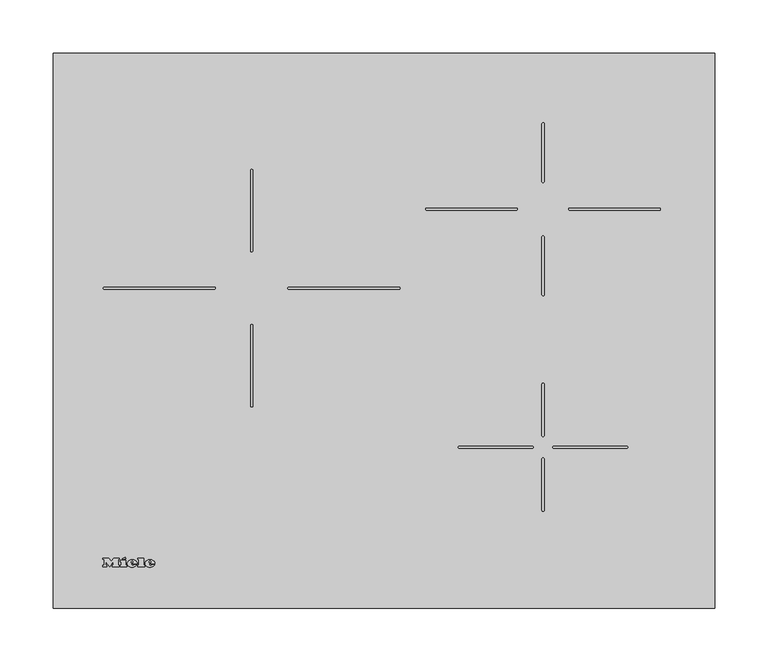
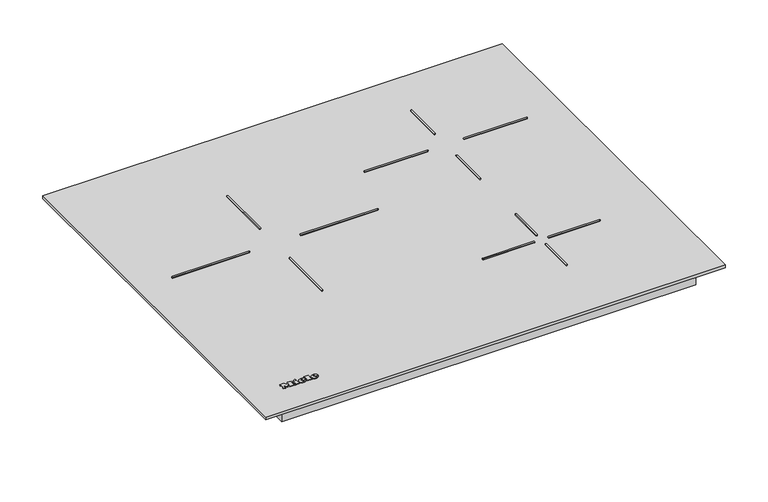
"""IFC4 building model written with IfcOpenShell, lengths in millimetres: proxy geometry, 12399750_AUS_KM7220FL : 26722070_AUS_12399750_KM7220FL."""

from ifc_helpers import new_model, si_unit, point, frame, frame_2d, origin, origin_with_axes, place, context, project, spatial, polyline, circle_curve, ellipse_curve, trimmed, segment, composite_curve, outline, extrude, source, transform, mapped, element, save
from ifc_brep_helpers import plane_surface, cylinder_surface, revolved_surface, extruded_surface, advanced_brep


def specialty_equipment_c76324b8(model_context):
    return source(origin(), model_context, "Body", "SolidModel", [
        advanced_brep(
        [(-219.911984, 41.066, 5.0000007), (-219.911984, 41.874, 5.0000007), (-214.559984, 41.874, 5.0000007), (-223.871984, 41.874, 5.0000007), (-221.671984, 39.17, 5.0000007), (-214.695984, 41.066, 5.0000007), (-217.111984, 41.066, 5.0000007), (-219.015984, 40.17, 5.0000007), (-219.911984, 42.898, 5.0000007), (-219.911984, 43.77, 5.0000007), (-218.543984, 43.77, 5.0000007), (-218.543984, 42.898, 5.0000007), (-219.911984, 41.066, 4.0000007), (-219.015984, 40.17, 4.0000007), (-217.111984, 41.066, 4.0000007), (-214.695984, 41.066, 4.0000007), (-221.671984, 39.17, 4.0000007), (-223.871984, 41.874, 4.0000007), (-214.559984, 41.874, 4.0000007), (-219.911984, 41.874, 4.0000007), (-219.911984, 42.898, 4.0000007), (-218.543984, 42.898, 4.0000007), (-218.543984, 43.77, 4.0000007), (-219.911984, 43.77, 4.0000007)],
        [
            (0, 1),
            (1, 2),
            (2, 3, ellipse_curve(frame((-219.215984, 41.874, 5.0000007), z_axis=(0.0, 0.0, 1.0), x_axis=(-1.0, 0.0, 0.0)), 4.656, 3.848)),
            (3, 4, circle_curve(frame((-220.7759404, 42.146, 5.0000007), z_axis=(0.0, 0.0, 1.0), x_axis=(0.0, -1.0, 0.0)), 3.1079688)),
            (4, 5, circle_curve(frame((-219.3091904, 44.258, 5.0000007), z_axis=(0.0, 0.0, 1.0), x_axis=(0.0, -1.0, 0.0)), 5.6098607)),
            (5, 6),
            (6, 7, circle_curve(frame((-218.6249252, 41.81, 5.0000007), z_axis=(0.0, 0.0, -1.0), x_axis=(0.0, -1.0, 0.0)), 1.6859795)),
            (7, 0, circle_curve(frame((-219.015984, 41.066, 5.0000007), z_axis=(0.0, 0.0, -1.0), x_axis=(0.0, -1.0, 0.0)), 0.896)),
            (8, 9),
            (9, 10, circle_curve(frame((-219.227984, 43.77, 5.0000007), z_axis=(0.0, 0.0, -1.0), x_axis=(0.0, -1.0, 0.0)), 0.684)),
            (10, 11),
            (11, 8),
            (12, 13, circle_curve(frame((-219.015984, 41.066, 4.0000007), z_axis=(0.0, 0.0, 1.0), x_axis=(0.0, -1.0, 0.0)), 0.896)),
            (13, 14, circle_curve(frame((-218.6249252, 41.81, 4.0000007), z_axis=(0.0, 0.0, 1.0), x_axis=(0.0, -1.0, 0.0)), 1.6859795)),
            (14, 15),
            (15, 16, circle_curve(frame((-219.3091904, 44.258, 4.0000007), z_axis=(0.0, 0.0, -1.0), x_axis=(0.0, -1.0, 0.0)), 5.6098607)),
            (16, 17, circle_curve(frame((-220.7759404, 42.146, 4.0000007), z_axis=(0.0, 0.0, -1.0), x_axis=(0.0, -1.0, 0.0)), 3.1079688)),
            (17, 18, ellipse_curve(frame((-219.215984, 41.874, 4.0000007), z_axis=(0.0, 0.0, -1.0), x_axis=(-1.0, 0.0, 0.0)), 4.656, 3.848)),
            (18, 19),
            (19, 12),
            (20, 21),
            (21, 22),
            (22, 23, circle_curve(frame((-219.227984, 43.77, 4.0000007), z_axis=(0.0, 0.0, 1.0), x_axis=(0.0, -1.0, 0.0)), 0.684)),
            (23, 20),
            (0, 12),
            (19, 1),
            (18, 2),
            (5, 15),
            (14, 6),
            (17, 3),
            (13, 7),
            (16, 4),
            (8, 20),
            (23, 9),
            (22, 10),
            (21, 11),
        ],
        [
            plane_surface(frame((-219.911984, 41.874, 5.0000007), z_axis=(0.0, 0.0, 1.0), x_axis=(0.0, 1.0, 0.0))),
            plane_surface(frame((-219.911984, 41.874, 4.0000007), z_axis=(0.0, 0.0, -1.0), x_axis=(0.0, -1.0, 0.0))),
            plane_surface(frame((-219.911984, 41.066, 5.0000007), z_axis=(1.0, 0.0, 0.0), x_axis=(0.0, 0.0, -1.0))),
            plane_surface(frame((-219.911984, 41.874, 5.0000007), z_axis=(0.0, -1.0, 0.0), x_axis=(0.0, 0.0, -1.0))),
            plane_surface(frame((-214.695984, 41.066, 5.0000007), z_axis=(0.0, 1.0, 0.0), x_axis=(0.0, 0.0, -1.0))),
            extruded_surface(trimmed(ellipse_curve(frame((-219.215984, 41.874, 3.0000007), z_axis=(0.0, 0.0, 1.0), x_axis=(-1.0, 0.0, 0.0)), 4.656, 3.848), [point((-214.559984, 41.874, 3.0000007))], [point((-223.871984, 41.874, 3.0000007))], True, "CARTESIAN"), (0.0, 0.0, 1.0), 1.0),
            revolved_surface(polyline([(-218.6249252, 40.1240205, 4.0000007), (-218.6249252, 40.1240205, 5.0000007)]), (-218.6249252, 41.81, 4.0000007), (0.0, 0.0, -1.0)),
            revolved_surface(polyline([(-219.015984, 40.17, 4.0000007), (-219.015984, 40.17, 5.0000007)]), (-219.015984, 41.066, 4.0000007), (0.0, 0.0, -1.0)),
            cylinder_surface(frame((-220.7759404, 42.146, 4.0000007), z_axis=(0.0, 0.0, 1.0), x_axis=(0.0, -1.0, 0.0)), 3.1079688),
            cylinder_surface(frame((-219.3091904, 44.258, 4.0000007), z_axis=(0.0, 0.0, 1.0), x_axis=(0.0, -1.0, 0.0)), 5.6098607),
            plane_surface(frame((-219.911984, 42.898, 5.0000007), z_axis=(1.0, 0.0, 0.0), x_axis=(0.0, 0.0, -1.0))),
            revolved_surface(polyline([(-219.227984, 43.086000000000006, 4.0000007), (-219.227984, 43.086000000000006, 5.0000007)]), (-219.227984, 43.77, 4.0000007), (0.0, 0.0, -1.0)),
            plane_surface(frame((-218.543984, 43.77, 5.0000007), z_axis=(-1.0, 0.0, 0.0), x_axis=(0.0, 0.0, -1.0))),
            plane_surface(frame((-218.543984, 42.898, 5.0000007), z_axis=(0.0, 1.0, 0.0), x_axis=(0.0, 0.0, -1.0))),
        ],
        [
            (0, [[1, 2, 3, 4, 5, 6, 7, 8], [9, 10, 11, 12]]),
            (1, [[13, 14, 15, 16, 17, 18, 19, 20], [21, 22, 23, 24]]),
            (2, [[-1, 25, -20, 26]]),
            (3, [[-2, -26, -19, 27]]),
            (4, [[-6, 28, -15, 29]]),
            (5, [[-3, -27, -18, 30]]),
            (6, [[-7, -29, -14, 31]]),
            (7, [[-8, -31, -13, -25]]),
            (8, [[-4, -30, -17, 32]]),
            (9, [[-5, -32, -16, -28]]),
            (10, [[-9, 33, -24, 34]]),
            (11, [[-10, -34, -23, 35]]),
            (12, [[-11, -35, -22, 36]]),
            (13, [[-12, -36, -21, -33]]),
        ],
    ),
        advanced_brep(
        [(-236.607984, 41.066, 5.0000007), (-236.607984, 41.874, 5.0000007), (-231.255984, 41.874, 5.0000007), (-240.567984, 41.874, 5.0000007), (-238.367984, 39.17, 5.0000007), (-231.391984, 41.066, 5.0000007), (-233.807984, 41.066, 5.0000007), (-235.711984, 40.17, 5.0000007), (-236.607984, 42.898, 5.0000007), (-236.607984, 43.77, 5.0000007), (-235.239984, 43.77, 5.0000007), (-235.239984, 42.898, 5.0000007), (-236.607984, 41.066, 4.0000007), (-235.711984, 40.17, 4.0000007), (-233.807984, 41.066, 4.0000007), (-231.391984, 41.066, 4.0000007), (-238.367984, 39.17, 4.0000007), (-240.567984, 41.874, 4.0000007), (-231.255984, 41.874, 4.0000007), (-236.607984, 41.874, 4.0000007), (-236.607984, 42.898, 4.0000007), (-235.239984, 42.898, 4.0000007), (-235.239984, 43.77, 4.0000007), (-236.607984, 43.77, 4.0000007)],
        [
            (0, 1),
            (1, 2),
            (2, 3, ellipse_curve(frame((-235.911984, 41.874, 5.0000007), z_axis=(0.0, 0.0, 1.0), x_axis=(-1.0, 0.0, 0.0)), 4.656, 3.848)),
            (3, 4, circle_curve(frame((-237.4719404, 42.146, 5.0000007), z_axis=(0.0, 0.0, 1.0), x_axis=(0.0, -1.0, 0.0)), 3.1079688)),
            (4, 5, circle_curve(frame((-236.0051904, 44.258, 5.0000007), z_axis=(0.0, 0.0, 1.0), x_axis=(0.0, -1.0, 0.0)), 5.6098607)),
            (5, 6),
            (6, 7, circle_curve(frame((-235.3209252, 41.81, 5.0000007), z_axis=(0.0, 0.0, -1.0), x_axis=(0.0, -1.0, 0.0)), 1.6859795)),
            (7, 0, circle_curve(frame((-235.711984, 41.066, 5.0000007), z_axis=(0.0, 0.0, -1.0), x_axis=(0.0, -1.0, 0.0)), 0.896)),
            (8, 9),
            (9, 10, circle_curve(frame((-235.923984, 43.77, 5.0000007), z_axis=(0.0, 0.0, -1.0), x_axis=(0.0, -1.0, 0.0)), 0.684)),
            (10, 11),
            (11, 8),
            (12, 13, circle_curve(frame((-235.711984, 41.066, 4.0000007), z_axis=(0.0, 0.0, 1.0), x_axis=(0.0, -1.0, 0.0)), 0.896)),
            (13, 14, circle_curve(frame((-235.3209252, 41.81, 4.0000007), z_axis=(0.0, 0.0, 1.0), x_axis=(0.0, -1.0, 0.0)), 1.6859795)),
            (14, 15),
            (15, 16, circle_curve(frame((-236.0051904, 44.258, 4.0000007), z_axis=(0.0, 0.0, -1.0), x_axis=(0.0, -1.0, 0.0)), 5.6098607)),
            (16, 17, circle_curve(frame((-237.4719404, 42.146, 4.0000007), z_axis=(0.0, 0.0, -1.0), x_axis=(0.0, -1.0, 0.0)), 3.1079688)),
            (17, 18, ellipse_curve(frame((-235.911984, 41.874, 4.0000007), z_axis=(0.0, 0.0, -1.0), x_axis=(-1.0, 0.0, 0.0)), 4.656, 3.848)),
            (18, 19),
            (19, 12),
            (20, 21),
            (21, 22),
            (22, 23, circle_curve(frame((-235.923984, 43.77, 4.0000007), z_axis=(0.0, 0.0, 1.0), x_axis=(0.0, -1.0, 0.0)), 0.684)),
            (23, 20),
            (0, 12),
            (19, 1),
            (18, 2),
            (5, 15),
            (14, 6),
            (17, 3),
            (13, 7),
            (16, 4),
            (8, 20),
            (23, 9),
            (22, 10),
            (21, 11),
        ],
        [
            plane_surface(frame((-236.607984, 41.874, 5.0000007), z_axis=(0.0, 0.0, 1.0), x_axis=(0.0, 1.0, 0.0))),
            plane_surface(frame((-236.607984, 41.874, 4.0000007), z_axis=(0.0, 0.0, -1.0), x_axis=(0.0, -1.0, 0.0))),
            plane_surface(frame((-236.607984, 41.066, 5.0000007), z_axis=(1.0, 0.0, 0.0), x_axis=(0.0, 0.0, -1.0))),
            plane_surface(frame((-236.607984, 41.874, 5.0000007), z_axis=(0.0, -1.0, 0.0), x_axis=(0.0, 0.0, -1.0))),
            plane_surface(frame((-231.391984, 41.066, 5.0000007), z_axis=(0.0, 1.0, 0.0), x_axis=(0.0, 0.0, -1.0))),
            extruded_surface(trimmed(ellipse_curve(frame((-235.911984, 41.874, 3.0000007), z_axis=(0.0, 0.0, 1.0), x_axis=(-1.0, 0.0, 0.0)), 4.656, 3.848), [point((-231.255984, 41.874, 3.0000007))], [point((-240.567984, 41.874, 3.0000007))], True, "CARTESIAN"), (0.0, 0.0, 1.0), 1.0),
            revolved_surface(polyline([(-235.3209252, 40.1240205, 4.0000007), (-235.3209252, 40.1240205, 5.0000007)]), (-235.3209252, 41.81, 4.0000007), (0.0, 0.0, -1.0)),
            revolved_surface(polyline([(-235.711984, 40.17, 4.0000007), (-235.711984, 40.17, 5.0000007)]), (-235.711984, 41.066, 4.0000007), (0.0, 0.0, -1.0)),
            cylinder_surface(frame((-237.4719404, 42.146, 4.0000007), z_axis=(0.0, 0.0, 1.0), x_axis=(0.0, -1.0, 0.0)), 3.1079688),
            cylinder_surface(frame((-236.0051904, 44.258, 4.0000007), z_axis=(0.0, 0.0, 1.0), x_axis=(0.0, -1.0, 0.0)), 5.6098607),
            plane_surface(frame((-236.607984, 42.898, 5.0000007), z_axis=(1.0, 0.0, 0.0), x_axis=(0.0, 0.0, -1.0))),
            revolved_surface(polyline([(-235.923984, 43.086000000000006, 4.0000007), (-235.923984, 43.086000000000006, 5.0000007)]), (-235.923984, 43.77, 4.0000007), (0.0, 0.0, -1.0)),
            plane_surface(frame((-235.239984, 43.77, 5.0000007), z_axis=(-1.0, 0.0, 0.0), x_axis=(0.0, 0.0, -1.0))),
            plane_surface(frame((-235.239984, 42.898, 5.0000007), z_axis=(0.0, 1.0, 0.0), x_axis=(0.0, 0.0, -1.0))),
        ],
        [
            (0, [[1, 2, 3, 4, 5, 6, 7, 8], [9, 10, 11, 12]]),
            (1, [[13, 14, 15, 16, 17, 18, 19, 20], [21, 22, 23, 24]]),
            (2, [[-1, 25, -20, 26]]),
            (3, [[-2, -26, -19, 27]]),
            (4, [[-6, 28, -15, 29]]),
            (5, [[-3, -27, -18, 30]]),
            (6, [[-7, -29, -14, 31]]),
            (7, [[-8, -31, -13, -25]]),
            (8, [[-4, -30, -17, 32]]),
            (9, [[-5, -32, -16, -28]]),
            (10, [[-9, 33, -24, 34]]),
            (11, [[-10, -34, -23, 35]]),
            (12, [[-11, -35, -22, 36]]),
            (13, [[-12, -36, -21, -33]]),
        ],
    ),
        extrude(outline(polyline([(-245.351984, 46.698), (-242.631984, 47.962), (-242.031984, 46.666), (-244.743984, 45.402), (-245.351984, 46.698)])), frame((0.0, 0.0, 4.0000007), z_axis=(0.0, 0.0, 1.0), x_axis=(1.0, 0.0, 0.0)), (0.0, 0.0, 1.0), 1.0),
        extrude(outline(polyline([(-247.327984, 45.226), (-241.943984, 45.226), (-241.943984, 40.514), (-241.015984, 40.514), (-241.015984, 39.17), (-247.327984, 39.17), (-247.327984, 40.514), (-246.375984, 40.514), (-246.375984, 43.794), (-247.327984, 43.794), (-247.327984, 45.226)])), frame((0.0, 0.0, 4.0000007), z_axis=(0.0, 0.0, 1.0), x_axis=(1.0, 0.0, 0.0)), (0.0, 0.0, 1.0), 1.0),
        extrude(outline(polyline([(-230.807984, 45.866), (-230.807984, 47.17), (-225.303984, 47.17), (-225.303984, 40.514), (-224.319984, 40.514), (-224.319984, 39.17), (-230.807984, 39.17), (-230.807984, 40.514), (-229.847984, 40.514), (-229.847984, 45.866), (-230.807984, 45.866)])), frame((0.0, 0.0, 4.0000007), z_axis=(0.0, 0.0, 1.0), x_axis=(1.0, 0.0, 0.0)), (0.0, 0.0, 1.0), 1.0),
        extrude(outline(polyline([(-263.271984, 45.866), (-263.271984, 47.17), (-257.695984, 47.17), (-255.351984, 44.17), (-253.015984, 47.17), (-248.143984, 47.17), (-248.143984, 45.866), (-249.159984, 45.866), (-249.159984, 40.514), (-248.143984, 40.514), (-248.143984, 39.17), (-254.527984, 39.17), (-254.527984, 40.514), (-253.543984, 40.514), (-253.543984, 43.9852223), (-257.135984, 39.17), (-260.711984, 43.9171247), (-260.711984, 40.514), (-259.751984, 40.514), (-259.751984, 39.17), (-263.271984, 39.17), (-263.271984, 40.514), (-262.303984, 40.514), (-262.303984, 45.866), (-263.271984, 45.866)])), frame((0.0, 0.0, 4.0000007), z_axis=(0.0, 0.0, 1.0), x_axis=(1.0, 0.0, 0.0)), (0.0, 0.0, 1.0), 1.0),
        extrude(outline(composite_curve([segment(polyline([(174.0, 375.0), (258.0, 375.0)]), True, "CONTINUOUS"), segment(trimmed(circle_curve(frame_2d((258.0, 374.0)), 1.0), [point((258.0, 375.0))], [point((258.0, 373.0))], False, "CARTESIAN"), True, "CONTINUOUS"), segment(polyline([(258.0, 373.0), (174.0, 373.0)]), True, "CONTINUOUS"), segment(trimmed(circle_curve(frame_2d((174.0, 374.0)), 1.0), [point((174.0, 373.0))], [point((174.0, 375.0))], False, "CARTESIAN"), True, "CONTINUOUS")], self_intersect=False)), frame((0.0, 0.0, 4.0000007), z_axis=(0.0, 0.0, 1.0), x_axis=(1.0, 0.0, 0.0)), (0.0, 0.0, 1.0), 1.0),
        extrude(outline(composite_curve([segment(trimmed(circle_curve(frame_2d((149.0, 454.0164244)), 1.0), [point((148.0, 454.0164244))], [point((150.0, 454.0164244))], False, "CARTESIAN"), True, "CONTINUOUS"), segment(polyline([(150.0, 454.0164244), (150.0, 400.0)]), True, "CONTINUOUS"), segment(trimmed(circle_curve(frame_2d((149.0, 400.0)), 1.0), [point((150.0, 400.0))], [point((148.0, 400.0))], False, "CARTESIAN"), True, "CONTINUOUS"), segment(polyline([(148.0, 400.0), (148.0, 454.0164244)]), True, "CONTINUOUS")], self_intersect=False)), frame((0.0, 0.0, 4.0000007), z_axis=(0.0, 0.0, 1.0), x_axis=(1.0, 0.0, 0.0)), (0.0, 0.0, 1.0), 1.0),
        extrude(outline(composite_curve([segment(trimmed(circle_curve(frame_2d((159.0, 151.0)), 1.0), [point((159.0, 150.0))], [point((159.0, 152.0))], False, "CARTESIAN"), True, "CONTINUOUS"), segment(polyline([(159.0, 152.0), (227.2574779, 152.0)]), True, "CONTINUOUS"), segment(trimmed(circle_curve(frame_2d((227.2574779, 151.0)), 1.0), [point((227.2574779, 152.0))], [point((227.2574779, 150.0))], False, "CARTESIAN"), True, "CONTINUOUS"), segment(polyline([(227.2574779, 150.0), (159.0, 150.0)]), True, "CONTINUOUS")], self_intersect=False)), frame((0.0, 0.0, 4.0000007), z_axis=(0.0, 0.0, 1.0), x_axis=(1.0, 0.0, 0.0)), (0.0, 0.0, 1.0), 1.0),
        extrude(outline(composite_curve([segment(polyline([(148.0, 92.0), (148.0, 140.0)]), True, "CONTINUOUS"), segment(trimmed(circle_curve(frame_2d((149.0, 140.0)), 1.0), [point((148.0, 140.0))], [point((150.0, 140.0))], False, "CARTESIAN"), True, "CONTINUOUS"), segment(polyline([(150.0, 140.0), (150.0, 92.0)]), True, "CONTINUOUS"), segment(trimmed(circle_curve(frame_2d((149.0, 92.0)), 1.0), [point((150.0, 92.0))], [point((148.0, 92.0))], False, "CARTESIAN"), True, "CONTINUOUS")], self_intersect=False)), frame((0.0, 0.0, 4.0000007), z_axis=(0.0, 0.0, 1.0), x_axis=(1.0, 0.0, 0.0)), (0.0, 0.0, 1.0), 1.0),
        extrude(outline(composite_curve([segment(polyline([(-125.0, 189.7404504), (-125.0, 265.0)]), True, "CONTINUOUS"), segment(trimmed(circle_curve(frame_2d((-124.0, 265.0)), 1.0), [point((-125.0, 265.0))], [point((-123.0, 265.0))], False, "CARTESIAN"), True, "CONTINUOUS"), segment(polyline([(-123.0, 265.0), (-123.0, 189.7404504)]), True, "CONTINUOUS"), segment(trimmed(circle_curve(frame_2d((-124.0, 189.7404504)), 1.0), [point((-123.0, 189.7404504))], [point((-125.0, 189.7404504))], False, "CARTESIAN"), True, "CONTINUOUS")], self_intersect=False)), frame((0.0, 0.0, 4.0000007), z_axis=(0.0, 0.0, 1.0), x_axis=(1.0, 0.0, 0.0)), (0.0, 0.0, 1.0), 1.0),
        extrude(outline(composite_curve([segment(trimmed(circle_curve(frame_2d((-89.0, 300.0)), 1.0), [point((-89.0, 299.0))], [point((-89.0, 301.0))], False, "CARTESIAN"), True, "CONTINUOUS"), segment(polyline([(-89.0, 301.0), (14.0, 301.0)]), True, "CONTINUOUS"), segment(trimmed(circle_curve(frame_2d((14.0, 300.0)), 1.0), [point((14.0, 301.0))], [point((14.0, 299.0))], False, "CARTESIAN"), True, "CONTINUOUS"), segment(polyline([(14.0, 299.0), (-89.0, 299.0)]), True, "CONTINUOUS")], self_intersect=False)), frame((0.0, 0.0, 4.0000007), z_axis=(0.0, 0.0, 1.0), x_axis=(1.0, 0.0, 0.0)), (0.0, 0.0, 1.0), 1.0),
        extrude(outline(composite_curve([segment(polyline([(148.0, 293.9835756), (148.0, 348.0)]), True, "CONTINUOUS"), segment(trimmed(circle_curve(frame_2d((149.0, 348.0)), 1.0), [point((148.0, 348.0))], [point((150.0, 348.0))], False, "CARTESIAN"), True, "CONTINUOUS"), segment(polyline([(150.0, 348.0), (150.0, 293.9835756)]), True, "CONTINUOUS"), segment(trimmed(circle_curve(frame_2d((149.0, 293.9835756)), 1.0), [point((150.0, 293.9835756))], [point((148.0, 293.9835756))], False, "CARTESIAN"), True, "CONTINUOUS")], self_intersect=False)), frame((0.0, 0.0, 4.0000007), z_axis=(0.0, 0.0, 1.0), x_axis=(1.0, 0.0, 0.0)), (0.0, 0.0, 1.0), 1.0),
        extrude(outline(composite_curve([segment(trimmed(circle_curve(frame_2d((124.0, 374.0)), 1.0), [point((124.0, 375.0))], [point((124.0, 373.0))], False, "CARTESIAN"), True, "CONTINUOUS"), segment(polyline([(124.0, 373.0), (40.0, 373.0)]), True, "CONTINUOUS"), segment(trimmed(circle_curve(frame_2d((40.0, 374.0)), 1.0), [point((40.0, 373.0))], [point((40.0, 375.0))], False, "CARTESIAN"), True, "CONTINUOUS"), segment(polyline([(40.0, 375.0), (124.0, 375.0)]), True, "CONTINUOUS")], self_intersect=False)), frame((0.0, 0.0, 4.0000007), z_axis=(0.0, 0.0, 1.0), x_axis=(1.0, 0.0, 0.0)), (0.0, 0.0, 1.0), 1.0),
        extrude(outline(composite_curve([segment(trimmed(circle_curve(frame_2d((149.0, 210.0)), 1.0), [point((148.0, 210.0))], [point((150.0, 210.0))], False, "CARTESIAN"), True, "CONTINUOUS"), segment(polyline([(150.0, 210.0), (150.0, 162.0)]), True, "CONTINUOUS"), segment(trimmed(circle_curve(frame_2d((149.0, 162.0)), 1.0), [point((150.0, 162.0))], [point((148.0, 162.0))], False, "CARTESIAN"), True, "CONTINUOUS"), segment(polyline([(148.0, 162.0), (148.0, 210.0)]), True, "CONTINUOUS")], self_intersect=False)), frame((0.0, 0.0, 4.0000007), z_axis=(0.0, 0.0, 1.0), x_axis=(1.0, 0.0, 0.0)), (0.0, 0.0, 1.0), 1.0),
        extrude(outline(composite_curve([segment(polyline([(139.0, 150.0), (70.7425221, 150.0)]), True, "CONTINUOUS"), segment(trimmed(circle_curve(frame_2d((70.7425221, 151.0)), 1.0), [point((70.7425221, 150.0))], [point((70.7425221, 152.0))], False, "CARTESIAN"), True, "CONTINUOUS"), segment(polyline([(70.7425221, 152.0), (139.0, 152.0)]), True, "CONTINUOUS"), segment(trimmed(circle_curve(frame_2d((139.0, 151.0)), 1.0), [point((139.0, 152.0))], [point((139.0, 150.0))], False, "CARTESIAN"), True, "CONTINUOUS")], self_intersect=False)), frame((0.0, 0.0, 4.0000007), z_axis=(0.0, 0.0, 1.0), x_axis=(1.0, 0.0, 0.0)), (0.0, 0.0, 1.0), 1.0),
        extrude(outline(composite_curve([segment(polyline([(-159.0, 299.0), (-262.0, 299.0)]), True, "CONTINUOUS"), segment(trimmed(circle_curve(frame_2d((-262.0, 300.0)), 1.0), [point((-262.0, 299.0))], [point((-262.0, 301.0))], False, "CARTESIAN"), True, "CONTINUOUS"), segment(polyline([(-262.0, 301.0), (-159.0, 301.0)]), True, "CONTINUOUS"), segment(trimmed(circle_curve(frame_2d((-159.0, 300.0)), 1.0), [point((-159.0, 301.0))], [point((-159.0, 299.0))], False, "CARTESIAN"), True, "CONTINUOUS")], self_intersect=False)), frame((0.0, 0.0, 4.0000007), z_axis=(0.0, 0.0, 1.0), x_axis=(1.0, 0.0, 0.0)), (0.0, 0.0, 1.0), 1.0),
        extrude(outline(composite_curve([segment(trimmed(circle_curve(frame_2d((-124.0, 410.2595496)), 1.0), [point((-125.0, 410.2595496))], [point((-123.0, 410.2595496))], False, "CARTESIAN"), True, "CONTINUOUS"), segment(polyline([(-123.0, 410.2595496), (-123.0, 335.0)]), True, "CONTINUOUS"), segment(trimmed(circle_curve(frame_2d((-124.0, 335.0)), 1.0), [point((-123.0, 335.0))], [point((-125.0, 335.0))], False, "CARTESIAN"), True, "CONTINUOUS"), segment(polyline([(-125.0, 335.0), (-125.0, 410.2595496)]), True, "CONTINUOUS")], self_intersect=False)), frame((0.0, 0.0, 4.0000007), z_axis=(0.0, 0.0, 1.0), x_axis=(1.0, 0.0, 0.0)), (0.0, 0.0, 1.0), 1.0),
        extrude(outline(polyline([(226.7938197, 480.0), (226.7938197, 362.7202614), (229.0, 362.7202614), (229.0, 76.0), (-64.0, 76.0), (-64.0, 480.0), (226.7938197, 480.0)])), frame((0.0, 0.0, -49.1723575), z_axis=(0.0, 0.0, 1.0), x_axis=(1.0, 0.0, 0.0)), (0.0, 0.0, 1.0), 26.1723575),
        extrude(outline(polyline([(279.0, 504.0), (279.0, 16.0), (-279.0, 16.0), (-279.0, 504.0), (279.0, 504.0)])), frame((0.0, 0.0, -23.0), z_axis=(0.0, 0.0, 1.0), x_axis=(1.0, 0.0, 0.0)), (0.0, 0.0, 1.0), 23.0),
        extrude(outline(polyline([(309.75, 520.0), (309.75, 0.0), (-309.75, 0.0), (-309.75, 520.0), (309.75, 520.0)])), origin_with_axes(), (0.0, 0.0, 1.0), 4.0000007),
        extrude(outline(polyline([(229.6227397, 383.1708126), (237.0, 383.1708126), (237.0, 381.9151088), (230.8784436, 381.9151088), (230.8784436, 378.6188861), (236.529111, 378.6188861), (236.529111, 377.3631822), (230.8784436, 377.3631822), (230.8784436, 374.3808855), (236.843037, 374.3808855), (236.843037, 373.1251816), (229.6227397, 373.1251816), (229.6227397, 383.1708126)])), frame((0.0, 0.0, -55.9814925), z_axis=(0.0, 0.0, 1.0), x_axis=(1.0, 0.0, 0.0)), (0.0, 0.0, 1.0), 1.0),
        extrude(outline(polyline([(238.8835558, 383.1708126), (245.1620752, 383.1708126), (245.1620752, 381.9151088), (240.1392597, 381.9151088), (240.1392597, 373.1251816), (238.8835558, 373.1251816), (238.8835558, 383.1708126)])), frame((0.0, 0.0, -55.9814925), z_axis=(0.0, 0.0, 1.0), x_axis=(1.0, 0.0, 0.0)), (0.0, 0.0, 1.0), 1.0),
        advanced_brep(
        [(214.0, 378.1708126, -42.9814925), (214.0, 378.1708126, -26.9814925), (228.7476293, 378.1708126, -42.9814925), (244.7476293, 378.1708126, -26.9814925), (228.7476293, 378.1708126, -54.9814925), (244.7476293, 378.1708126, -54.9814925)],
        [
            (0, 1, circle_curve(frame((214.0, 378.1708126, -34.9814925), z_axis=(-1.0, 0.0, 0.0), x_axis=(0.0, 0.0, 1.0)), 8.0)),
            (1, 0, circle_curve(frame((214.0, 378.1708126, -34.9814925), z_axis=(-1.0, 0.0, 0.0), x_axis=(0.0, 0.0, 1.0)), 8.0)),
            (0, 2),
            (2, 3, ellipse_curve(frame((236.7476293, 378.1708126, -34.9814925), z_axis=(-0.7071067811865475, 0.0, 0.7071067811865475), x_axis=(-0.7071067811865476, 0.0, -0.7071067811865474)), 11.3137085, 8.0)),
            (3, 1),
            (3, 2, ellipse_curve(frame((236.7476293, 378.1708126, -34.9814925), z_axis=(-0.7071067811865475, 0.0, 0.7071067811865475), x_axis=(-0.7071067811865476, 0.0, -0.7071067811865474)), 11.3137085, 8.0)),
            (4, 5, circle_curve(frame((236.7476293, 378.1708126, -54.9814925), z_axis=(0.0, 0.0, -1.0), x_axis=(1.0, 0.0, 0.0)), 8.0)),
            (5, 4, circle_curve(frame((236.7476293, 378.1708126, -54.9814925), z_axis=(0.0, 0.0, -1.0), x_axis=(1.0, 0.0, 0.0)), 8.0)),
            (2, 4),
            (5, 3),
        ],
        [
            plane_surface(frame((214.0, 0.0, -34.9814925), z_axis=(-1.0, 0.0, 0.0), x_axis=(0.0, -1.0, 0.0))),
            cylinder_surface(frame((214.0, 378.1708126, -34.9814925), z_axis=(-1.0, 0.0, 0.0), x_axis=(0.0, 0.0, 1.0)), 8.0),
            plane_surface(frame((236.7476293, 0.0, -54.9814925), z_axis=(0.0, 0.0, -1.0), x_axis=(0.0, -1.0, 0.0))),
            cylinder_surface(frame((236.7476293, 378.1708126, -34.9814925), z_axis=(0.0, 0.0, 1.0), x_axis=(1.0, 0.0, 0.0)), 8.0),
        ],
        [
            (0, [[1, 2]]),
            (1, [[-1, 3, 4, 5]]),
            (1, [[-2, -5, 6, -3]]),
            (2, [[7, 8]]),
            (3, [[-4, 9, -8, 10]]),
            (3, [[-6, -10, -7, -9]]),
        ],
    ),
    ])


if __name__ == "__main__":
    model = new_model("IFC4")
    model_context = context("Model", 3, world=origin())
    ifc_project = project(units=[si_unit("LENGTHUNIT", "METRE", prefix="MILLI")], contexts=[model_context])
    site = spatial("IfcSite", under=ifc_project)
    building = spatial("IfcBuilding", under=site)
    placement = place(None, origin())
    specialty_equipment_shape = specialty_equipment_c76324b8(model_context)
    element("IfcBuildingElementProxy", 1, Name="12399750_AUS_KM7220FL : 26722070_AUS_12399750_KM7220FL", ObjectType="12399750_AUS_KM7220FL : 26722070_AUS_12399750_KM7220FL", at=placement, inside=building, context=model_context, shape_type="MappedRepresentation", body=[
        mapped(specialty_equipment_shape, transform((0.0, 0.0, 0.0), x_axis=(1.0, 0.0, 0.0), y_axis=(0.0, 1.0, 0.0), z_axis=(0.0, 0.0, 1.0))),
    ])
    save(model, "model.ifc")
